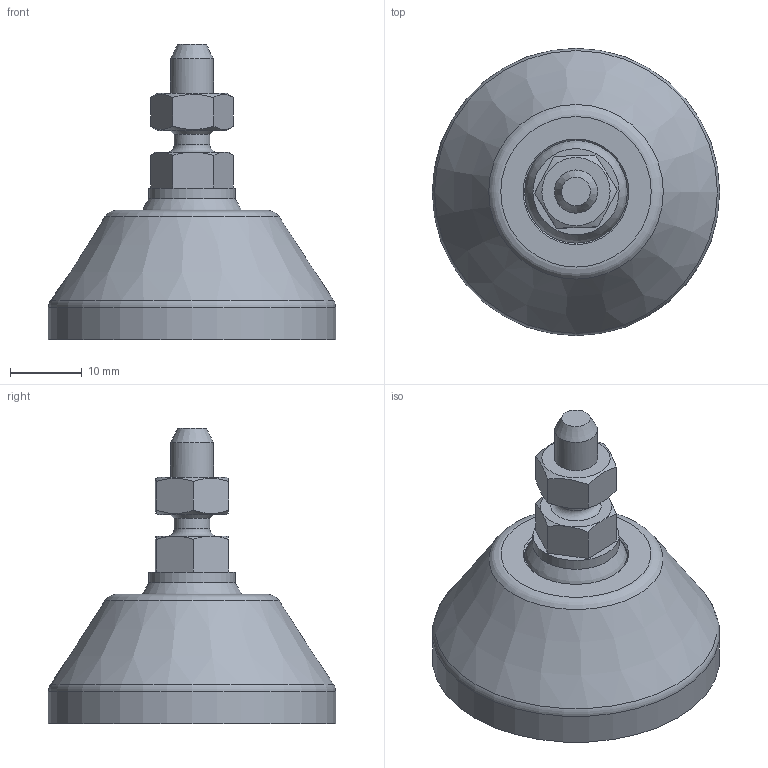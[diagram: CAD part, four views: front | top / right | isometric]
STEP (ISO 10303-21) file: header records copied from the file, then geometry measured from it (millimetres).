
FILE_DESCRIPTION(('STEP AP203'), '1');
FILE_NAME('栖闉罻', '', ('UNSPECIFIED'), ('UNSPECIFIED'), 'C3D Converter', 'C3D Toolkit', '');
FILE_SCHEMA(('CONFIG_CONTROL_DESIGN'));
Length unit declared in the file: millimetre
Products named in the file (4): A00015.1040; A00020.106015
Assembly tree (3 placements, depth 3):
  (unnamed)
    A00015.1040
    A00020.106015
      (unnamed)
Bounding box: 40 x 40 x 41.1 mm (x, y, z)
Volume: 12576.4 mm3; surface area: 7668.9 mm2
Topology: 3 solids, 3 shells, 142 faces, 396 edges, 264 vertices
Faces by surface type: plane 78, cylinder 26, torus 21, cone 15, sphere 2
Full cylindrical faces by diameter (mm): 4.917 x1, 5 x1, 6 x1, 12 x1, 14.3 x1, 15 x2, 15.5 x1, 32 x1, 40 x1
Entity records: 8306 total; most frequent: CARTESIAN_POINT 3421, ORIENTED_EDGE 738, DIRECTION 736, EDGE_CURVE 369, AXIS2_PLACEMENT_3D 295, VERTEX_POINT 263, EDGE_LOOP 174, FACE_BOUND 155
